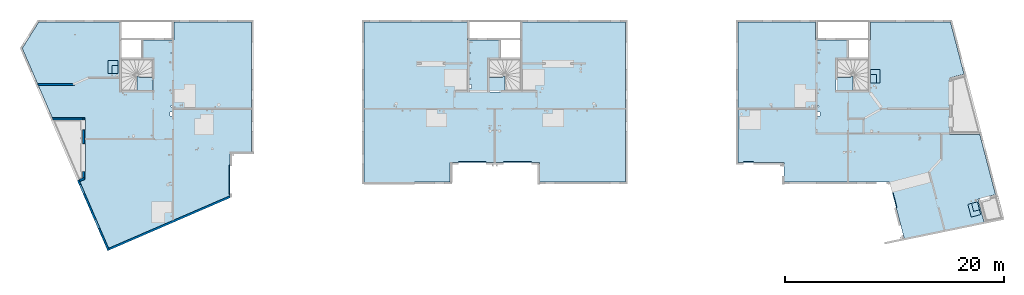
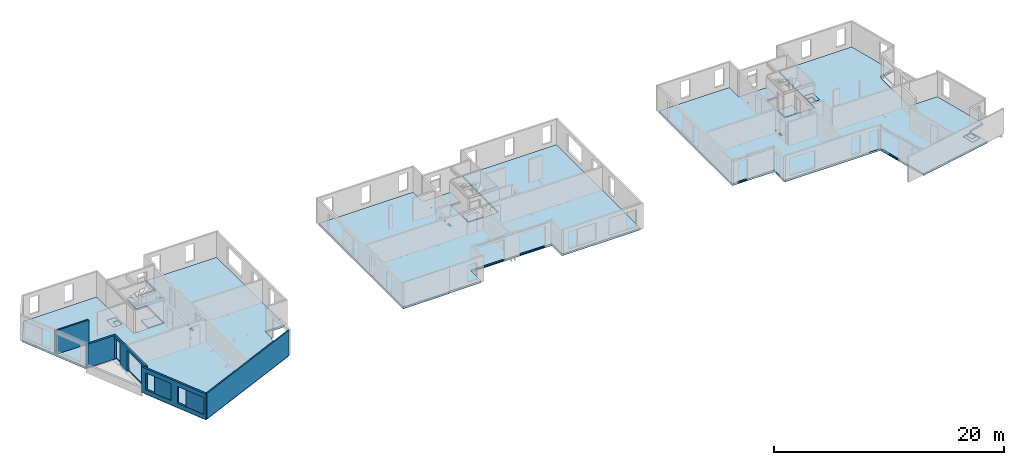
# One storey, part 2 of 24: 6 slabs, 6 walls, 31 openings.
"""IFC2X3 building model written with IfcOpenShell, lengths in centimetres."""

from ifc_helpers import new_model, entity, si_unit, converted_unit, derived_unit, direction, frame, frame_2d, origin, origin_2d_with_axis, place, context, subcontext, project, spatial, polyline, circle_curve, parameter, trimmed, segment, composite_curve, rectangle, circle, outline, extrude, clip, bounded_halfspace, material, layer, layer_set, layer_usage, type_object, element, save


model = new_model("IFC2X3")

# Units and contexts
model_context = context("Model", 3, precision=0.001, world=origin(), true_north=direction((6.12303176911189e-17, 1.0)))
body_context = subcontext(model_context, "Body", "Model", "MODEL_VIEW")
ifc_project = project(units=[si_unit("LENGTHUNIT", "METRE", prefix="CENTI"), si_unit("AREAUNIT", "SQUARE_METRE"), si_unit("VOLUMEUNIT", "CUBIC_METRE"), converted_unit("PLANEANGLEUNIT", "DEGREE", entity("IfcRatioMeasure", 0.0174532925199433), si_unit("PLANEANGLEUNIT", "RADIAN"), dimensions=[0, 0, 0, 0, 0, 0, 0]), si_unit("MASSUNIT", "GRAM", prefix="KILO"), derived_unit("MASSDENSITYUNIT", [(si_unit("MASSUNIT", "GRAM", prefix="KILO"), 1), (si_unit("LENGTHUNIT", "METRE"), -3)]), si_unit("TIMEUNIT", "SECOND"), si_unit("FREQUENCYUNIT", "HERTZ"), si_unit("THERMODYNAMICTEMPERATUREUNIT", "DEGREE_CELSIUS"), derived_unit("THERMALTRANSMITTANCEUNIT", [(si_unit("MASSUNIT", "GRAM", prefix="KILO"), 1), (si_unit("THERMODYNAMICTEMPERATUREUNIT", "KELVIN"), -1), (si_unit("TIMEUNIT", "SECOND"), -3)]), derived_unit("VOLUMETRICFLOWRATEUNIT", [(si_unit("LENGTHUNIT", "METRE"), 3), (si_unit("TIMEUNIT", "SECOND"), -1)]), si_unit("ELECTRICCURRENTUNIT", "AMPERE"), si_unit("ELECTRICVOLTAGEUNIT", "VOLT"), si_unit("POWERUNIT", "WATT"), si_unit("FORCEUNIT", "NEWTON"), si_unit("ILLUMINANCEUNIT", "LUX"), si_unit("LUMINOUSFLUXUNIT", "LUMEN"), si_unit("LUMINOUSINTENSITYUNIT", "CANDELA"), derived_unit("USERDEFINED", [(si_unit("MASSUNIT", "GRAM", prefix="KILO"), -1), (si_unit("LENGTHUNIT", "METRE"), -2), (si_unit("TIMEUNIT", "SECOND"), 3), (si_unit("LUMINOUSFLUXUNIT", "LUMEN"), 1)]), derived_unit("LINEARVELOCITYUNIT", [(si_unit("LENGTHUNIT", "METRE"), 1), (si_unit("TIMEUNIT", "SECOND"), -1)]), si_unit("PRESSUREUNIT", "PASCAL"), derived_unit("USERDEFINED", [(si_unit("LENGTHUNIT", "METRE"), -2), (si_unit("MASSUNIT", "GRAM", prefix="KILO"), 1), (si_unit("TIMEUNIT", "SECOND"), -2)])], contexts=[model_context])

# Site, building, storey
site_placement = place(None, origin())
site = spatial("IfcSite", under=ifc_project, at=site_placement, Name="Default", CompositionType="ELEMENT")
building_placement = place(site_placement, origin())
building = spatial("IfcBuilding", under=site, at=building_placement, Name="CAGE 03", CompositionType="ELEMENT")
storey_placement = place(building_placement, frame((0.0, 0.0, 1150.0)))
storey = spatial("IfcBuildingStorey", under=building, at=storey_placement, Name="R+4", CompositionType="ELEMENT", Elevation=1150.0)

# Slab, openings
ifc_material_1 = material(Name="Béton, C25/30")
ifc_layer_1 = layer(ifc_material_1, 20.0)
ifc_layer_set_1 = layer_set([ifc_layer_1], Name="Sol:Dalle Béton - 20 cm")
ifc_layer_usage_1 = layer_usage(ifc_layer_set_1, "AXIS3", "POSITIVE", 0.0)
slab_1_placement = place(storey_placement, frame((2767.3065813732, 3205.79894432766, -20.0)))
slab_1 = element("IfcSlab", 1, at=slab_1_placement, inside=storey, material=ifc_layer_usage_1, Name="Sol:Dalle Béton - 20 cm", ObjectType="Sol:Dalle Béton - 20 cm", PredefinedType="FLOOR", context=body_context, shape_type="SweptSolid", body=[
    extrude(outline(polyline([(159.470380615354, 1034.93086087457), (159.470380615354, 869.930860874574), (153.970380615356, 869.930860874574), (153.970380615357, 397.430860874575), (-153.029619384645, 397.430860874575), (-153.029619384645, 704.430860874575), (-53.5296193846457, 704.430860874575), (-53.5296193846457, 869.930860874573), (-338.529619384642, 869.930860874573), (-338.529619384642, 1034.93086087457), (-1046.52961938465, 1034.93086087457), (-1046.52961938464, -150.569139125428), (-848.529619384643, -150.569139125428), (-848.529619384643, -557.49017219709), (254.908165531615, -1034.93086087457), (520.373674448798, -421.399840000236), (476.970380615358, -402.619897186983), (476.970380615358, 158.930860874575), (771.47391161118, 158.930860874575), (1046.52961938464, 794.626284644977), (895.631312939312, 1034.93086087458), (159.470380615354, 1034.93086087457)])), frame((1046.52961938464, 1034.93086087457, 20.0), z_axis=(0.0, 0.0, -1.0), x_axis=(-1.0, 0.0, 0.0)), (0.0, 0.0, 1.0), 20.0),
])
opening_1_placement = place(slab_1_placement, origin())
element("IfcOpeningElement", 2, at=opening_1_placement, cuts=slab_1, ObjectType="Opening", context=body_context, shape_type="SweptSolid", body=[
    extrude(rectangle(XDim=271.0, YDim=26.0000000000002, at=origin_2d_with_axis()), frame((1900.05923876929, 629.861721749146, 8.0), z_axis=(0.0, 0.0, 1.0), x_axis=(0.0, 1.0, 0.0)), (0.0, 0.0, 1.0), 11.9999999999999),
])
opening_2_placement = place(slab_1_placement, origin())
element("IfcOpeningElement", 3, at=opening_2_placement, cuts=slab_1, ObjectType="Opening", context=body_context, shape_type="SweptSolid", body=[
    extrude(rectangle(XDim=120.000000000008, YDim=89.9999999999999, at=origin_2d_with_axis()), frame((830.059238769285, 1659.36172174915, 17.0), z_axis=(0.0, 0.0, 1.0), x_axis=(0.0, -1.0, 0.0)), (0.0, 0.0, 1.0), 13.9999999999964),
])
opening_3_placement = place(slab_1_placement, origin())
element("IfcOpeningElement", 4, at=opening_3_placement, cuts=slab_1, ObjectType="Opening", context=body_context, shape_type="SweptSolid", body=[
    extrude(rectangle(XDim=75.0000000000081, YDim=55.0000000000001, at=origin_2d_with_axis()), frame((847.559238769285, 1636.86172174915, 10.0), z_axis=(0.0, 0.0, 1.0), x_axis=(0.0, -1.0, 0.0)), (0.0, 0.0, 1.0), 20.9999999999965),
])
opening_4_placement = place(slab_1_placement, origin())
element("IfcOpeningElement", 5, at=opening_4_placement, cuts=slab_1, ObjectType="Opening", context=body_context, shape_type="SweptSolid", body=[
    extrude(outline(polyline([(-10.1497662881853, 1.95574397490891), (-10.6831510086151, -0.486693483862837), (12.7642485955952, -5.6071867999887), (13.8310180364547, -0.722311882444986), (-2.77755668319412, 2.90470421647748), (-2.9847926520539, 1.95574397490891), (-10.1497662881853, 1.95574397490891)])), frame((565.225905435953, 1084.86172174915, 17.2452208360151), z_axis=(0.0, -1.0, 0.0), x_axis=(-0.976974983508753, 0.0, -0.213353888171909)), (0.0, 0.0, -1.0), 91.0000000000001),
])
opening_5_placement = place(slab_1_placement, origin())
element("IfcOpeningElement", 6, at=opening_5_placement, cuts=slab_1, ObjectType="Opening", context=body_context, shape_type="SweptSolid", body=[
    extrude(outline(polyline([(-10.1497662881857, 1.95574397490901), (-10.6831510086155, -0.486693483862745), (12.7642485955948, -5.60718679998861), (13.8310180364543, -0.722311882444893), (-2.77755668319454, 2.90470421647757), (-2.98479265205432, 1.95574397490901), (-10.1497662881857, 1.95574397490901)])), frame((565.22590543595, 704.86172174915, 17.2452208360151), z_axis=(0.0, -1.0, 0.0), x_axis=(-0.976974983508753, 0.0, -0.213353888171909)), (0.0, 0.0, -1.0), 254.999999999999),
])
opening_6_placement = place(slab_1_placement, origin())
element("IfcOpeningElement", 7, at=opening_6_placement, cuts=slab_1, ObjectType="Opening", context=body_context, shape_type="SweptSolid", body=[
    extrude(rectangle(XDim=39.9999999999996, YDim=19.9999999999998, at=origin_2d_with_axis()), frame((1357.05923876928, 1230.36172174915, -254.327930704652), z_axis=(0.0, 0.0, 1.0), x_axis=(0.0, -1.0, 0.0)), (0.0, 0.0, 1.0), 493.425926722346),
])
opening_7_placement = place(slab_1_placement, origin())
element("IfcOpeningElement", 8, at=opening_7_placement, cuts=slab_1, ObjectType="Opening", context=body_context, shape_type="SweptSolid", body=[
    extrude(circle(Radius=5.5, at=origin_2d_with_axis()), frame((1361.55923876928, 1300.36172174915, 0.0)), (0.0, 0.0, 1.0), 20.0),
])
opening_8_placement = place(slab_1_placement, origin())
element("IfcOpeningElement", 9, at=opening_8_placement, cuts=slab_1, ObjectType="Opening", context=body_context, shape_type="SweptSolid", body=[
    extrude(circle(Radius=5.5, at=origin_2d_with_axis()), frame((1361.55923876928, 1785.86172174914, 0.0)), (0.0, 0.0, 1.0), 20.0),
])

ifc_layer_usage_2 = layer_usage(ifc_layer_set_1, "AXIS3", "POSITIVE", 0.0)
slab_2_placement = place(storey_placement, frame((5888.36582014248, 3809.1606660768, -20.0)))
slab_2 = element("IfcSlab", 10, at=slab_2_placement, inside=storey, material=ifc_layer_usage_2, Name="Sol:Dalle Béton - 20 cm", ObjectType="Sol:Dalle Béton - 20 cm", PredefinedType="FLOOR", context=body_context, shape_type="SweptSolid", body=[
    extrude(outline(polyline([(-37.0, 402.749999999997), (62.4999999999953, 402.749999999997), (62.4999999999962, 95.7499999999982), (-244.500000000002, 95.7499999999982), (-244.500000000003, 568.249999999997), (-250.0, 568.249999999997), (-250.0, 733.249999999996), (-1193.0, 733.249999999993), (-1193.0, -727.750000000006), (-408.0, -727.750000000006), (-408.0, -547.750000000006), (408.0, -547.750000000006), (408.0, -727.749999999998), (734.0, -727.749999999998), (734.0, -733.25), (1193.0, -733.249999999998), (1193.0, 733.25), (250.0, 733.249999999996), (250.0, 568.249999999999), (-37.0, 568.249999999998), (-37.0, 402.749999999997)])), frame((1193.0, 733.25, 20.0), z_axis=(0.0, 0.0, -1.0), x_axis=(-1.0, 0.0, 0.0)), (0.0, 0.0, 1.0), 20.0),
])
opening_9_placement = place(slab_2_placement, origin())
element("IfcOpeningElement", 11, at=opening_9_placement, cuts=slab_2, ObjectType="Opening", context=body_context, shape_type="SweptSolid", body=[
    extrude(rectangle(XDim=254.999999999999, YDim=26.0000000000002, at=origin_2d_with_axis()), frame((986.499999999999, 180.499999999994, 8.0)), (0.0, 0.0, 1.0), 11.9999999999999),
])
opening_10_placement = place(slab_2_placement, origin())
element("IfcOpeningElement", 12, at=opening_10_placement, cuts=slab_2, ObjectType="Opening", context=body_context, shape_type="SweptSolid", body=[
    extrude(rectangle(XDim=254.999999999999, YDim=25.9999999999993, at=origin_2d_with_axis()), frame((1399.49999999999, 180.499999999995, 8.0)), (0.0, 0.0, 1.0), 11.9999999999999),
])
opening_11_placement = place(slab_2_placement, origin())
element("IfcOpeningElement", 13, at=opening_11_placement, cuts=slab_2, ObjectType="Opening", context=body_context, shape_type="SweptSolid", body=[
    extrude(rectangle(XDim=39.9999999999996, YDim=19.9999999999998, at=origin_2d_with_axis()), frame((971.0, 878.0, -254.327930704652), z_axis=(0.0, 0.0, 1.0), x_axis=(0.0, -1.0, 0.0)), (0.0, 0.0, 1.0), 493.425926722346),
])
opening_12_placement = place(slab_2_placement, origin())
element("IfcOpeningElement", 14, at=opening_12_placement, cuts=slab_2, ObjectType="Opening", context=body_context, shape_type="SweptSolid", body=[
    extrude(circle(Radius=5.5, at=origin_2d_with_axis()), frame((966.500000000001, 948.0, 0.0)), (0.0, 0.0, 1.0), 20.0),
])
opening_13_placement = place(slab_2_placement, origin())
element("IfcOpeningElement", 15, at=opening_13_placement, cuts=slab_2, ObjectType="Opening", context=body_context, shape_type="SweptSolid", body=[
    extrude(circle(Radius=5.5, at=origin_2d_with_axis()), frame((966.5, 1182.49999999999, 0.0)), (0.0, 0.0, 1.0), 20.0),
])

ifc_layer_usage_3 = layer_usage(ifc_layer_set_1, "AXIS3", "POSITIVE", 0.0)
slab_3_placement = place(storey_placement, frame((9302.36582014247, 3296.83520563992, -20.0)))
slab_3 = element("IfcSlab", 16, at=slab_3_placement, inside=storey, material=ifc_layer_usage_3, Name="Sol:Dalle Béton - 20 cm", ObjectType="Sol:Dalle Béton - 20 cm", PredefinedType="FLOOR", context=body_context, shape_type="SweptSolid", body=[
    extrude(outline(polyline([(466.513688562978, 989.412730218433), (466.513688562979, 824.412730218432), (181.513688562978, 824.412730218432), (181.513688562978, 658.912730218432), (281.013688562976, 658.912730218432), (281.013688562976, 351.912730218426), (-25.9863114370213, 351.912730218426), (-25.9863114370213, 824.412730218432), (-31.4863114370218, 824.412730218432), (-31.4863114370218, 989.412730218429), (-763.038472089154, 989.412730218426), (-887.469560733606, 512.946663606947), (-753.486311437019, 477.95638258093), (-753.486311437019, -37.5872697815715), (-1031.24377985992, -37.5872697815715), (-1174.51368856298, -586.190119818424), (-1014.86794097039, -627.882268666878), (-1070.08746437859, -839.326445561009), (-341.880906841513, -989.412730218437), (-206.648641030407, -471.587269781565), (755.513688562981, -471.587269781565), (755.513688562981, -291.587269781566), (1174.51368856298, -291.587269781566), (1174.51368856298, 989.412730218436), (466.513688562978, 989.412730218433)])), frame((1174.51368856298, 989.412730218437, 20.0), z_axis=(0.0, 0.0, -1.0), x_axis=(-1.0, 0.0, 0.0)), (0.0, 0.0, 1.0), 20.0),
])
opening_14_placement = place(slab_3_placement, origin())
element("IfcOpeningElement", 17, at=opening_14_placement, cuts=slab_3, ObjectType="Opening", context=body_context, shape_type="SweptSolid", body=[
    extrude(rectangle(XDim=90.0000000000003, YDim=26.0000000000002, at=origin_2d_with_axis()), frame((94.500000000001, 692.825460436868, 8.0)), (0.0, 0.0, 1.0), 11.9999999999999),
])
opening_15_placement = place(slab_3_placement, origin())
element("IfcOpeningElement", 18, at=opening_15_placement, cuts=slab_3, ObjectType="Opening", context=body_context, shape_type="SweptSolid", body=[
    extrude(rectangle(XDim=220.0, YDim=26.0000000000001, at=origin_2d_with_axis()), frame((1409.15874534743, 390.834914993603, 8.0), z_axis=(0.0, 0.0, 1.0), x_axis=(0.25267968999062, -0.967549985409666, 0.0)), (0.0, 0.0, 1.0), 11.9999999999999),
])
opening_16_placement = place(slab_3_placement, origin())
element("IfcOpeningElement", 19, at=opening_16_placement, cuts=slab_3, ObjectType="Opening", context=body_context, shape_type="SweptSolid", body=[
    extrude(rectangle(XDim=120.000000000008, YDim=90.0000000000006, at=origin_2d_with_axis()), frame((2155.07735478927, 267.304845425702, 17.0), z_axis=(0.0, 0.0, 1.0), x_axis=(-0.252679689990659, 0.967549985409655, 0.0)), (0.0, 0.0, 1.0), 13.9999999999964),
])
opening_17_placement = place(slab_3_placement, origin())
element("IfcOpeningElement", 20, at=opening_17_placement, cuts=slab_3, ObjectType="Opening", context=body_context, shape_type="SweptSolid", body=[
    extrude(rectangle(XDim=75.0000000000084, YDim=55.0000000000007, at=origin_2d_with_axis()), frame((2166.32418650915, 293.496614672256, 10.0), z_axis=(0.0, 0.0, 1.0), x_axis=(-0.252679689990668, 0.967549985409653, 0.0)), (0.0, 0.0, 1.0), 20.9999999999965),
])
opening_18_placement = place(slab_3_placement, origin())
element("IfcOpeningElement", 21, at=opening_18_placement, cuts=slab_3, ObjectType="Opening", context=body_context, shape_type="SweptSolid", body=[
    extrude(rectangle(XDim=90.0000000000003, YDim=120.000000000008, at=origin_2d_with_axis()), frame((1251.0, 1482.82546043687, 17.0), z_axis=(0.0, 0.0, 1.0), x_axis=(-1.0, 0.0, 0.0)), (0.0, 0.0, 1.0), 13.9999999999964),
])
opening_19_placement = place(slab_3_placement, origin())
element("IfcOpeningElement", 22, at=opening_19_placement, cuts=slab_3, ObjectType="Opening", context=body_context, shape_type="SweptSolid", body=[
    extrude(rectangle(XDim=54.9999999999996, YDim=75.0000000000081, at=origin_2d_with_axis()), frame((1233.50000000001, 1460.32546043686, 10.0), z_axis=(0.0, 0.0, 1.0), x_axis=(-1.0, 0.0, 0.0)), (0.0, 0.0, 1.0), 20.9999999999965),
])
opening_20_placement = place(slab_3_placement, origin())
element("IfcOpeningElement", 23, at=opening_20_placement, cuts=slab_3, ObjectType="Opening", context=body_context, shape_type="SweptSolid", body=[
    extrude(outline(polyline([(0.254779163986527, -10.3333333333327), (2.75477916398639, -10.3333333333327), (2.75477916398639, 13.666666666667), (-2.24522083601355, 13.666666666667), (-2.24522083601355, -3.33333333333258), (-1.27389581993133, -3.33333333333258), (0.254779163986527, -10.3333333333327)])), frame((1932.33333333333, 1019.82546043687, 17.2452208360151), z_axis=(0.0, 1.0, 0.0), x_axis=(0.0, 0.0, 1.0)), (0.0, 0.0, 1.0), 91.000000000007),
])
opening_21_placement = place(slab_3_placement, origin())
element("IfcOpeningElement", 24, at=opening_21_placement, cuts=slab_3, ObjectType="Opening", context=body_context, shape_type="SweptSolid", body=[
    extrude(outline(polyline([(0.254779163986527, -10.3333333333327), (2.75477916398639, -10.3333333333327), (2.75477916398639, 13.666666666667), (-2.24522083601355, 13.666666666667), (-2.24522083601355, -3.33333333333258), (-1.27389581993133, -3.33333333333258), (0.254779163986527, -10.3333333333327)])), frame((1932.33333333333, 1219.82546043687, 17.2452208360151), z_axis=(0.0, 1.0, 0.0), x_axis=(0.0, 0.0, 1.0)), (0.0, 0.0, 1.0), 220.000000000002),
])
opening_22_placement = place(slab_3_placement, origin())
element("IfcOpeningElement", 25, at=opening_22_placement, cuts=slab_3, ObjectType="Opening", context=body_context, shape_type="SweptSolid", body=[
    extrude(rectangle(XDim=39.9999999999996, YDim=19.9999999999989, at=origin_2d_with_axis()), frame((736.0, 1139.32546043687, -254.327930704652), z_axis=(0.0, 0.0, 1.0), x_axis=(0.0, -1.0, 0.0)), (0.0, 0.0, 1.0), 493.425926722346),
])
opening_23_placement = place(slab_3_placement, origin())
element("IfcOpeningElement", 26, at=opening_23_placement, cuts=slab_3, ObjectType="Opening", context=body_context, shape_type="SweptSolid", body=[
    extrude(circle(Radius=5.5, at=origin_2d_with_axis()), frame((731.500000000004, 1209.32546043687, 0.0)), (0.0, 0.0, 1.0), 20.0),
])
opening_24_placement = place(slab_3_placement, origin())
element("IfcOpeningElement", 27, at=opening_24_placement, cuts=slab_3, ObjectType="Opening", context=body_context, shape_type="SweptSolid", body=[
    extrude(circle(Radius=5.5, at=origin_2d_with_axis()), frame((731.500000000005, 1694.82546043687, 0.0)), (0.0, 0.0, 1.0), 20.0),
])

# Slabs
ifc_layer_usage_4 = layer_usage(ifc_layer_set_1, "AXIS3", "POSITIVE", 0.0)
slab_4_placement = place(storey_placement, origin())
element("IfcSlab", 28, at=slab_4_placement, inside=storey, material=ifc_layer_usage_4, Name="Sol:Dalle Béton - 20 cm", ObjectType="Sol:Dalle Béton - 20 cm", PredefinedType="FLOOR", context=body_context, shape_type="SweptSolid", body=[
    extrude(outline(composite_curve([segment(polyline([(-85.2340667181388, -57.407853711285), (46.2659332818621, -57.407853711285)]), True, "CONTINUOUS"), segment(trimmed(circle_curve(frame_2d((61.265933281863, -57.4078537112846), x_axis=(-1.0, 0.0)), 15.0000000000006), [parameter(309.828117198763)], [parameter(0.0)], True, "PARAMETER"), False, "CONTINUOUS"), segment(trimmed(circle_curve(frame_2d((70.189448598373, -17.4802710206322), x_axis=(-0.546347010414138, -0.837558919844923)), 33.9176653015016), [parameter(303.116761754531)], [parameter(0.0)], True, "PARAMETER"), False, "CONTINUOUS"), segment(polyline([(36.271783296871, -17.4802710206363), (36.271783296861, 89.0921462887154)]), True, "CONTINUOUS"), segment(polyline([(36.271783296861, 89.0921462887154), (-85.2340667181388, 89.0921462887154)]), True, "CONTINUOUS"), segment(polyline([(-85.2340667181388, 89.0921462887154), (-85.2340667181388, -57.407853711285)]), True, "CONTINUOUS")], self_intersect=False)), frame((3870.77367385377, 4730.39473279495, 0.0), z_axis=(0.0, 0.0, -1.0), x_axis=(0.0, 1.0, 0.0)), (0.0, 0.0, 1.0), 20.0),
])
ifc_layer_usage_5 = layer_usage(ifc_layer_set_1, "AXIS3", "POSITIVE", 0.0)
slab_5_placement = place(storey_placement, origin())
element("IfcSlab", 29, at=slab_5_placement, inside=storey, material=ifc_layer_usage_5, Name="Sol:Dalle Béton - 20 cm", ObjectType="Sol:Dalle Béton - 20 cm", PredefinedType="FLOOR", context=body_context, shape_type="SweptSolid", body=[
    extrude(outline(composite_curve([segment(polyline([(-85.2340667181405, -89.092146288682), (36.271783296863, -89.0921462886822)]), True, "CONTINUOUS"), segment(polyline([(36.271783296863, -89.0921462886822), (36.271783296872, 17.4802710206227)]), True, "CONTINUOUS"), segment(trimmed(circle_curve(frame_2d((70.189448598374, 17.4802710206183), x_axis=(-1.0, 0.0)), 33.9176653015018), [parameter(303.116761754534)], [parameter(0.0)], True, "PARAMETER"), False, "CONTINUOUS"), segment(trimmed(circle_curve(frame_2d((61.2659332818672, 57.4078537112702), x_axis=(-0.640486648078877, -0.76796930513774)), 15.0000000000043), [parameter(309.828117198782)], [parameter(0.0)], True, "PARAMETER"), False, "CONTINUOUS"), segment(polyline([(46.2659332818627, 57.4078537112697), (-85.2340667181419, 57.407853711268)]), True, "CONTINUOUS"), segment(polyline([(-85.2340667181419, 57.407853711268), (-85.2340667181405, -89.092146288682)]), True, "CONTINUOUS")], self_intersect=False)), frame((7114.95796643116, 4730.39473279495, 0.0), z_axis=(0.0, 0.0, -1.0), x_axis=(0.0, 1.0, 0.0)), (0.0, 0.0, 1.0), 20.0),
])
ifc_layer_usage_6 = layer_usage(ifc_layer_set_1, "AXIS3", "POSITIVE", 0.0)
slab_6_placement = place(storey_placement, origin())
element("IfcSlab", 30, at=slab_6_placement, inside=storey, material=ifc_layer_usage_6, Name="Sol:Dalle Béton - 20 cm", ObjectType="Sol:Dalle Béton - 20 cm", PredefinedType="FLOOR", context=body_context, shape_type="SweptSolid", body=[
    extrude(outline(composite_curve([segment(polyline([(-85.2340667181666, -89.0921462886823), (36.2717832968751, -89.0921462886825)]), True, "CONTINUOUS"), segment(polyline([(36.2717832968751, -89.0921462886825), (36.2717832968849, 17.4802710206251)]), True, "CONTINUOUS"), segment(trimmed(circle_curve(frame_2d((70.1894485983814, 17.4802710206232), x_axis=(-1.0, 0.0)), 33.9176653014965), [parameter(303.116761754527)], [parameter(0.0)], True, "PARAMETER"), False, "CONTINUOUS"), segment(trimmed(circle_curve(frame_2d((61.2659332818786, 57.4078537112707), x_axis=(-0.640486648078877, -0.76796930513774)), 15.0000000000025), [parameter(309.828117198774)], [parameter(0.0)], True, "PARAMETER"), False, "CONTINUOUS"), segment(polyline([(46.2659332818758, 57.4078537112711), (-85.2340667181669, 57.4078537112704)]), True, "CONTINUOUS"), segment(polyline([(-85.2340667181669, 57.4078537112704), (-85.2340667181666, -89.0921462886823)]), True, "CONTINUOUS")], self_intersect=False)), frame((10291.9579664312, 4730.39473279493, 0.0), z_axis=(0.0, 0.0, -1.0), x_axis=(0.0, 1.0, 0.0)), (0.0, 0.0, 1.0), 20.0),
])

# Wall, openings
ifc_layer_2 = layer(ifc_material_1, 18.0)
ifc_layer_set_2 = layer_set([ifc_layer_2], Name="Mur de base:Voile BA 18")
ifc_layer_usage_7 = layer_usage(ifc_layer_set_2, "AXIS2", "NEGATIVE", 9.0)
wall_type_1 = type_object("IfcWallType", Name="Mur de base:Voile BA 18", PredefinedType="STANDARD", material=ifc_layer_set_2)
wall_1_placement = place(storey_placement, frame((3555.63190908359, 3190.75283012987, 0.0), z_axis=(0.0, 0.0, 1.0), x_axis=(-0.397106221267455, 0.917772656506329, 0.0)))
wall_1 = element("IfcWallStandardCase", 31, at=wall_1_placement, inside=storey, type_object=wall_type_1, material=ifc_layer_usage_7, Name="Mur de base:Voile BA 18", ObjectType="Mur de base:Voile BA 18", context=body_context, shape_type="SweptSolid", body=[
    extrude(rectangle(XDim=698.999999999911, YDim=18.0000000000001, at=frame_2d((349.499999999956, -3.90798504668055e-14), x_axis=(-1.0, 0.0))), origin(), (0.0, 0.0, 1.0), 270.0),
])
opening_25_placement = place(wall_1_placement, origin())
element("IfcOpeningElement", 32, at=opening_25_placement, cuts=wall_1, Name="Mur de base:Voile BA 18", ObjectType="Recess", context=body_context, shape_type="SweptSolid", body=[
    extrude(rectangle(XDim=181.0, YDim=184.0, at=frame_2d((-2.91322521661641e-13, -1.06581410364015e-13), x_axis=(0.0, 1.0))), frame((470.0, 7.0, 135.5), z_axis=(0.0, 1.0, 0.0), x_axis=(1.0, 0.0, 0.0)), (0.0, 0.0, 1.0), 2.00000000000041),
])
opening_26_placement = place(wall_1_placement, origin())
element("IfcOpeningElement", 33, at=opening_26_placement, cuts=wall_1, Name="Mur de base:Voile BA 18", ObjectType="Recess", context=body_context, shape_type="SweptSolid", body=[
    extrude(rectangle(XDim=181.0, YDim=194.0, at=frame_2d((0.0, -1.06581410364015e-13), x_axis=(0.0, 1.0))), frame((121.0, 7.0, 135.5), z_axis=(0.0, 1.0, 0.0), x_axis=(1.0, 0.0, 0.0)), (0.0, 0.0, 1.0), 2.00000000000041),
])
opening_27_placement = place(wall_1_placement, origin())
element("IfcOpeningElement", 34, at=opening_27_placement, cuts=wall_1, Name="Mur de base:Voile BA 18", ObjectType="Recess", context=body_context, shape_type="SweptSolid", body=[
    extrude(rectangle(XDim=181.0, YDim=194.0, at=frame_2d((0.0, -1.06581410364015e-13), x_axis=(0.0, 1.0))), frame((1875.49999999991, 7.0, 135.5), z_axis=(0.0, 1.0, 0.0), x_axis=(1.0, 0.0, 0.0)), (0.0, 0.0, 1.0), 2.00000000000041),
])
opening_28_placement = place(wall_1_placement, frame((-1516.4221495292, 4530.32954212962, 0.0), z_axis=(0.0, 0.0, 1.0), x_axis=(-0.397106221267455, -0.917772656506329, 0.0)))
element("IfcOpeningElement", 35, at=opening_28_placement, cuts=wall_1, Name="Mur de base:Voile BA 18", ObjectType="Opening", context=body_context, shape_type="SweptSolid", body=[
    extrude(rectangle(XDim=181.0, YDim=91.0, at=frame_2d((-2.1316282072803e-13, 8.88178419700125e-14), x_axis=(1.0, 0.0))), frame((3445.99847860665, 3805.24475108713, 135.5), z_axis=(-0.917772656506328, -0.397106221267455, 0.0), x_axis=(0.0, 0.0, 1.0)), (0.0, 0.0, 1.0), 304.8),
])
opening_29_placement = place(wall_1_placement, frame((-1516.4221495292, 4530.32954212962, 0.0), z_axis=(0.0, 0.0, 1.0), x_axis=(-0.397106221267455, -0.917772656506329, 0.0)))
element("IfcOpeningElement", 36, at=opening_29_placement, cuts=wall_1, Name="Mur de base:Voile BA 18", ObjectType="Opening", context=body_context, shape_type="SweptSolid", body=[
    extrude(rectangle(XDim=181.0, YDim=91.0, at=frame_2d((-2.1316282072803e-13, 8.88178419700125e-14), x_axis=(1.0, 0.0))), frame((3582.60301872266, 3489.53095724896, 135.5), z_axis=(-0.917772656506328, -0.397106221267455, 0.0), x_axis=(0.0, 0.0, 1.0)), (0.0, 0.0, 1.0), 304.8),
])

# Wall
ifc_layer_usage_8 = layer_usage(ifc_layer_set_2, "AXIS2", "NEGATIVE", 9.0)
wall_2_placement = place(storey_placement, frame((3289.88857031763, 3827.58991911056, 0.0), z_axis=(0.0, 0.0, 1.0), x_axis=(0.917772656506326, 0.397106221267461, 0.0)))
element("IfcWallStandardCase", 37, at=wall_2_placement, inside=storey, type_object=wall_type_1, material=ifc_layer_usage_8, Name="Mur de base:Voile BA 18", ObjectType="Mur de base:Voile BA 18", context=body_context, shape_type="SweptSolid", body=[
    extrude(outline(polyline([(47.2919884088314, -9.0), (55.0803136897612, 9.0), (35.4676134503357, 9.0), (0.0, 9.0), (0.0, -9.0), (47.2919884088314, -9.0)])), origin(), (0.0, 0.0, 1.0), 250.0),
])

# Wall, openings
ifc_layer_usage_9 = layer_usage(ifc_layer_set_2, "AXIS2", "NEGATIVE", 9.0)
wall_3_placement = place(storey_placement, frame((3327.86582014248, 3849.93428297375, 0.0), z_axis=(0.0, 0.0, 1.0), x_axis=(0.0, 1.0, 0.0)))
wall_3 = element("IfcWallStandardCase", 38, at=wall_3_placement, inside=storey, type_object=wall_type_1, material=ifc_layer_usage_9, Name="Mur de base:Voile BA 18", ObjectType="Mur de base:Voile BA 18", context=body_context, shape_type="SweptSolid", body=[
    extrude(outline(polyline([(7.78832528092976, -9.0), (350.226383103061, -9.0), (368.226383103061, -9.0), (549.72638310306, -9.0), (549.72638310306, 9.0), (531.72638310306, 9.0), (0.0, 9.0), (7.78832528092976, -9.0)])), origin(), (0.0, 0.0, 1.0), 250.0),
])
opening_30_placement = place(wall_3_placement, frame((-3849.93428297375, 3327.86582014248, 0.0), z_axis=(0.0, 0.0, 1.0), x_axis=(0.0, -1.0, 0.0)))
element("IfcOpeningElement", 39, at=opening_30_placement, cuts=wall_3, Name="Mur de base:Voile BA 18", ObjectType="Opening", context=body_context, shape_type="SweptSolid", body=[
    extrude(rectangle(XDim=226.0, YDim=255.0, at=frame_2d((1.13686837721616e-13, 4.33431068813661e-13), x_axis=(1.0, 0.0))), frame((3471.26582014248, 4038.16066607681, 113.0), z_axis=(-1.0, 0.0, 0.0), x_axis=(0.0, 0.0, 1.0)), (0.0, 0.0, 1.0), 304.8),
])
opening_31_placement = place(wall_3_placement, frame((-3849.93428297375, 3327.86582014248, 0.0), z_axis=(0.0, 0.0, 1.0), x_axis=(0.0, -1.0, 0.0)))
element("IfcOpeningElement", 40, at=opening_31_placement, cuts=wall_3, Name="Mur de base:Voile BA 18", ObjectType="Opening", context=body_context, shape_type="SweptSolid", body=[
    extrude(rectangle(XDim=226.0, YDim=91.0000000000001, at=frame_2d((-1.13686837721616e-13, 0.0), x_axis=(1.0, 0.0))), frame((3471.26582014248, 4336.16066607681, 113.0), z_axis=(-1.0, 0.0, 0.0), x_axis=(0.0, 0.0, 1.0)), (0.0, 0.0, 1.0), 304.8),
])

# Walls
ifc_layer_usage_10 = layer_usage(ifc_layer_set_2, "AXIS2", "NEGATIVE", 9.0)
wall_4_placement = place(storey_placement, frame((3318.86582014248, 4390.66066607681, 0.0), z_axis=(0.0, 0.0, 1.0), x_axis=(-1.0, 0.0, 0.0)))
element("IfcWallStandardCase", 41, at=wall_4_placement, inside=storey, type_object=wall_type_1, material=ifc_layer_usage_10, Name="Mur de base:Voile BA 18", ObjectType="Mur de base:Voile BA 18", context=body_context, shape_type="SweptSolid", body=[
    extrude(outline(polyline([(276.503530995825, -9.0), (268.715205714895, 9.0), (0.0, 9.0), (0.0, -9.0), (276.503530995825, -9.0)])), origin(), (0.0, 0.0, 1.0), 250.0),
])
ifc_material_2 = material(Name="Béton, panneaux préfa 30/37")
ifc_layer_3 = layer(ifc_material_2, 5.5)
ifc_layer_4 = layer(ifc_material_1, 7.0)
ifc_layer_5 = layer(ifc_material_2, 5.5)
ifc_layer_set_3 = layer_set([ifc_layer_3, ifc_layer_4, ifc_layer_5], Name="Mur de base:premur 18")
ifc_layer_usage_11 = layer_usage(ifc_layer_set_3, "AXIS2", "POSITIVE", -9.0)
wall_type_2 = type_object("IfcWallType", Name="Mur de base:premur 18", PredefinedType="NOTDEFINED")
wall_5_placement = place(storey_placement, frame((3560.31790700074, 3202.58674002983, 0.0), z_axis=(0.0, 0.0, 1.0), x_axis=(0.917772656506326, 0.39710622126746, 0.0)))
element("IfcWallStandardCase", 42, at=wall_5_placement, inside=storey, type_object=wall_type_2, material=ifc_layer_usage_11, Name="Mur de base:premur 18", ObjectType="Mur de base:premur 18", context=body_context, shape_type="Clipping", body=[
    clip(clip(clip(extrude(outline(polyline([(1196.89113568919, -9.0), (1202.29969491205, 3.4999999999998), (1204.67946097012, 9.0), (648.986287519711, 9.0), (629.373587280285, 9.0), (0.0, 9.0), (0.0, 3.50000000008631), (0.0, -9.0), (1196.89113568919, -9.0)])), origin(), (0.0, 0.0, 1.0), 270.0), bounded_halfspace(frame((0.0, -9.0, 270.0), z_axis=(0.0, 0.0, -1.0), x_axis=(0.0, 1.0, 0.0)), True, frame((0.0, -9.0, 270.0)), polyline([(0.0, 0.0), (147.0, 0.0), (147.0, 12.5000000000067), (0.0, 12.5000000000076), (0.0, 0.0)]))), bounded_halfspace(frame((0.0, 3.50000000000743, 250.0), z_axis=(0.0, 0.0, -1.0), x_axis=(-0.397106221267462, -0.917772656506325, 0.0)), True, frame((0.0, 3.50000000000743, 250.0), z_axis=(0.0, 0.0, -1.0), x_axis=(-0.397106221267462, -0.917772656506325, 0.0)), polyline([(0.0, 0.0), (-5.04774961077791, 2.18408421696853), (-254.975916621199, -575.437784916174), (-262.764241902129, -593.437784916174), (-483.433458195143, -1103.43778491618), (-477.440688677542, -1103.43778491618), (0.0, 0.0)]))), bounded_halfspace(frame((1202.29969491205, 3.5000000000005, 250.0), z_axis=(0.0, -1.0, 0.0), x_axis=(0.0, 0.0, 1.0)), True, frame((1202.29969491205, 3.5000000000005, 250.0), z_axis=(0.0, -1.0, 0.0), x_axis=(0.0, 0.0, 1.0)), polyline([(0.0, 0.0), (20.0, 0.0), (20.0, 1055.29969491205), (20.0, 1202.29969491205), (0.0, 1202.29969491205), (0.0, 0.0)]))),
])
ifc_layer_6 = layer(ifc_material_1, 16.0)
ifc_layer_set_4 = layer_set([ifc_layer_6], Name="Mur de base:Voile BA 16")
ifc_layer_usage_12 = layer_usage(ifc_layer_set_4, "AXIS2", "POSITIVE", -8.0)
wall_type_3 = type_object("IfcWallType", Name="Mur de base:Voile BA 16", PredefinedType="STANDARD", material=ifc_layer_set_4)
wall_6_placement = place(storey_placement, frame((2906.93196620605, 4704.66066607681, 0.0)))
element("IfcWallStandardCase", 43, at=wall_6_placement, inside=storey, type_object=wall_type_3, material=ifc_layer_usage_12, Name="Mur de base:Voile BA 16", ObjectType="Mur de base:Voile BA 16", context=body_context, shape_type="SweptSolid", body=[
    extrude(outline(polyline([(334.433853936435, -8.0), (334.433853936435, 8.0), (0.0, 8.0), (6.92295580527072, -8.0), (334.433853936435, -8.0)])), origin(), (0.0, 0.0, 1.0), 250.0),
])

save(model, "model.ifc")
